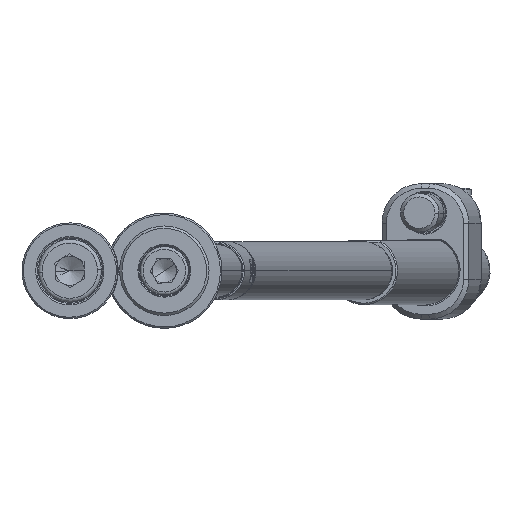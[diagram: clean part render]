
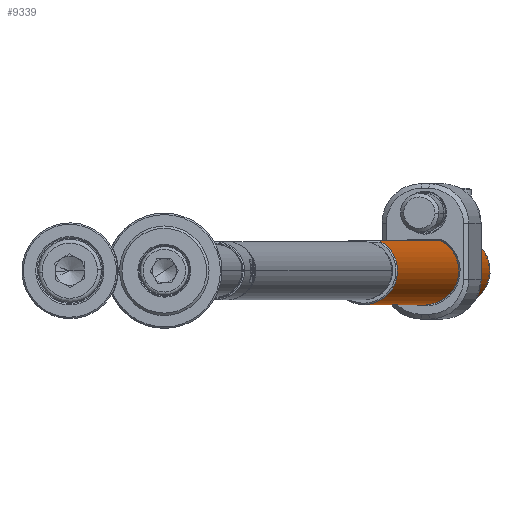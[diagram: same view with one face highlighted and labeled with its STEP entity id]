
A CAD part, front view. The second image highlights one B-rep face of the part: STEP entity #9339.
In plain terms, the highlighted cylindrical face has radius 7 mm (diameter 14 mm), a partial arc.
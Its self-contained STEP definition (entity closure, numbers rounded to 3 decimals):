
#5 = CARTESIAN_POINT ( 'NONE',  ( 6.2, -3.25, 199.7 ) ) ;
#147 = CARTESIAN_POINT ( 'NONE',  ( -7., 0., 200. ) ) ;
#616 = VERTEX_POINT ( 'NONE', #6880 ) ;
#669 = CARTESIAN_POINT ( 'NONE',  ( 6.2, -3.25, 0.3 ) ) ;
#822 = EDGE_CURVE ( 'NONE', #1551, #6247, #5561, .T. ) ;
#973 = CARTESIAN_POINT ( 'NONE',  ( 6.131, -3.379, 7.796 ) ) ;
#1106 = CARTESIAN_POINT ( 'NONE',  ( 0., 0., 199.7 ) ) ;
#1222 = ORIENTED_EDGE ( 'NONE', *, *, #822, .T. ) ;
#1551 = VERTEX_POINT ( 'NONE', #12722 ) ;
#1595 = CARTESIAN_POINT ( 'NONE',  ( 5.876, -3.805, 8.752 ) ) ;
#2228 = CARTESIAN_POINT ( 'NONE',  ( 6.2, -3.25, 12.5 ) ) ;
#2421 = VECTOR ( 'NONE', #10368, 1000. ) ;
#2756 = CARTESIAN_POINT ( 'NONE',  ( 5.744, -4., 9.635 ) ) ;
#2924 = CARTESIAN_POINT ( 'NONE',  ( 6.2, -3.25, 12.5 ) ) ;
#2976 = CARTESIAN_POINT ( 'NONE',  ( 6.049, -3.524, 8.099 ) ) ;
#3073 = DIRECTION ( 'NONE',  ( 1., 0., 0. ) ) ;
#3373 = AXIS2_PLACEMENT_3D ( 'NONE', #5864, #10147, #8899 ) ;
#3614 = CIRCLE ( 'NONE', #3373, 7. ) ;
#3957 = VECTOR ( 'NONE', #10841, 1000. ) ;
#4023 = VERTEX_POINT ( 'NONE', #669 ) ;
#4096 = ORIENTED_EDGE ( 'NONE', *, *, #6623, .T. ) ;
#4339 = EDGE_CURVE ( 'NONE', #10591, #616, #13373, .T. ) ;
#4360 = EDGE_CURVE ( 'NONE', #616, #4023, #3614, .T. ) ;
#4857 = CARTESIAN_POINT ( 'NONE',  ( 5.915, -3.744, 11.42 ) ) ;
#4992 = ORIENTED_EDGE ( 'NONE', *, *, #4339, .T. ) ;
#5063 = CARTESIAN_POINT ( 'NONE',  ( 6.049, -3.524, 11.901 ) ) ;
#5561 = B_SPLINE_CURVE_WITH_KNOTS ( 'NONE', 3,
 ( #10065, #7736, #12191, #2228 ),
 .UNSPECIFIED., .F., .F.,
 ( 4, 4 ),
 ( 0., 0. ),
 .UNSPECIFIED. ) ;
#5593 = CARTESIAN_POINT ( 'NONE',  ( 6.2, -3.25, 200. ) ) ;
#5864 = CARTESIAN_POINT ( 'NONE',  ( 0., 0., 0.3 ) ) ;
#6136 = AXIS2_PLACEMENT_3D ( 'NONE', #1106, #12149, #3073 ) ;
#6246 = CARTESIAN_POINT ( 'NONE',  ( 5.745, -4., 10.372 ) ) ;
#6247 = VERTEX_POINT ( 'NONE', #2924 ) ;
#6323 = B_SPLINE_CURVE_WITH_KNOTS ( 'NONE', 3,
 ( #8479, #10757, #973, #8631 ),
 .UNSPECIFIED., .F., .F.,
 ( 4, 4 ),
 ( 0., 0. ),
 .UNSPECIFIED. ) ;
#6623 = EDGE_CURVE ( 'NONE', #10825, #13644, #6323, .T. ) ;
#6683 = EDGE_CURVE ( 'NONE', #8098, #10591, #11953, .T. ) ;
#6880 = CARTESIAN_POINT ( 'NONE',  ( -7., 0., 0.3 ) ) ;
#6899 = CARTESIAN_POINT ( 'NONE',  ( -7., 0., 199.7 ) ) ;
#6937 = EDGE_CURVE ( 'NONE', #8098, #6247, #8320, .T. ) ;
#7023 = CYLINDRICAL_SURFACE ( 'NONE', #13959, 7. ) ;
#7061 = EDGE_LOOP ( 'NONE', ( #12298, #4992, #9498, #7991, #4096, #13199, #1222, #11843 ) ) ;
#7736 = CARTESIAN_POINT ( 'NONE',  ( 6.131, -3.379, 12.204 ) ) ;
#7990 = VECTOR ( 'NONE', #13582, 1000. ) ;
#7991 = ORIENTED_EDGE ( 'NONE', *, *, #10498, .F. ) ;
#8098 = VERTEX_POINT ( 'NONE', #5 ) ;
#8254 = CARTESIAN_POINT ( 'NONE',  ( 5.78, -3.95, 9.275 ) ) ;
#8307 = DIRECTION ( 'NONE',  ( -1., 0., 0. ) ) ;
#8320 = LINE ( 'NONE', #12806, #2421 ) ;
#8398 = CARTESIAN_POINT ( 'NONE',  ( 5.915, -3.744, 8.582 ) ) ;
#8479 = CARTESIAN_POINT ( 'NONE',  ( 6.2, -3.25, 7.5 ) ) ;
#8631 = CARTESIAN_POINT ( 'NONE',  ( 6.1, -3.434, 7.948 ) ) ;
#8899 = DIRECTION ( 'NONE',  ( 1., 0., 0. ) ) ;
#9028 = EDGE_CURVE ( 'NONE', #1551, #13644, #12522, .T. ) ;
#9339 = ADVANCED_FACE ( 'NONE', ( #12870 ), #7023, .T. ) ;
#9489 = CARTESIAN_POINT ( 'NONE',  ( 5.876, -3.804, 11.25 ) ) ;
#9498 = ORIENTED_EDGE ( 'NONE', *, *, #4360, .T. ) ;
#9868 = LINE ( 'NONE', #5593, #3957 ) ;
#10065 = CARTESIAN_POINT ( 'NONE',  ( 6.1, -3.434, 12.052 ) ) ;
#10147 = DIRECTION ( 'NONE',  ( 0., 0., 1. ) ) ;
#10368 = DIRECTION ( 'NONE',  ( 0., 0., -1. ) ) ;
#10498 = EDGE_CURVE ( 'NONE', #10825, #4023, #9868, .T. ) ;
#10591 = VERTEX_POINT ( 'NONE', #6899 ) ;
#10743 = CARTESIAN_POINT ( 'NONE',  ( 6.001, -3.604, 8.256 ) ) ;
#10757 = CARTESIAN_POINT ( 'NONE',  ( 6.164, -3.317, 7.646 ) ) ;
#10825 = VERTEX_POINT ( 'NONE', #14318 ) ;
#10841 = DIRECTION ( 'NONE',  ( 0., 0., -1. ) ) ;
#11469 = CARTESIAN_POINT ( 'NONE',  ( 0., 0., 200. ) ) ;
#11553 = CARTESIAN_POINT ( 'NONE',  ( 6.1, -3.434, 12.052 ) ) ;
#11592 = CARTESIAN_POINT ( 'NONE',  ( 6.1, -3.434, 7.948 ) ) ;
#11618 = DIRECTION ( 'NONE',  ( 0., 0., -1. ) ) ;
#11638 = CARTESIAN_POINT ( 'NONE',  ( 6.002, -3.604, 11.745 ) ) ;
#11843 = ORIENTED_EDGE ( 'NONE', *, *, #6937, .F. ) ;
#11953 = CIRCLE ( 'NONE', #6136, 7. ) ;
#12149 = DIRECTION ( 'NONE',  ( 0., 0., -1. ) ) ;
#12191 = CARTESIAN_POINT ( 'NONE',  ( 6.164, -3.317, 12.354 ) ) ;
#12298 = ORIENTED_EDGE ( 'NONE', *, *, #6683, .T. ) ;
#12522 = B_SPLINE_CURVE_WITH_KNOTS ( 'NONE', 3,
 ( #11553, #5063, #11638, #4857, #9489, #13963, #6246, #2756, #8254, #1595, #8398, #10743, #2976, #12889 ),
 .UNSPECIFIED., .F., .F.,
 ( 4, 2, 2, 2, 2, 2, 4 ),
 ( 0., 0.001, 0.001, 0.003, 0.004, 0.004, 0.005 ),
 .UNSPECIFIED. ) ;
#12722 = CARTESIAN_POINT ( 'NONE',  ( 6.1, -3.434, 12.052 ) ) ;
#12806 = CARTESIAN_POINT ( 'NONE',  ( 6.2, -3.25, 200. ) ) ;
#12870 = FACE_OUTER_BOUND ( 'NONE', #7061, .T. ) ;
#12889 = CARTESIAN_POINT ( 'NONE',  ( 6.1, -3.434, 7.948 ) ) ;
#13199 = ORIENTED_EDGE ( 'NONE', *, *, #9028, .F. ) ;
#13373 = LINE ( 'NONE', #147, #7990 ) ;
#13582 = DIRECTION ( 'NONE',  ( 0., 0., -1. ) ) ;
#13644 = VERTEX_POINT ( 'NONE', #11592 ) ;
#13959 = AXIS2_PLACEMENT_3D ( 'NONE', #11469, #11618, #8307 ) ;
#13963 = CARTESIAN_POINT ( 'NONE',  ( 5.781, -3.95, 10.729 ) ) ;
#14318 = CARTESIAN_POINT ( 'NONE',  ( 6.2, -3.25, 7.5 ) ) ;
